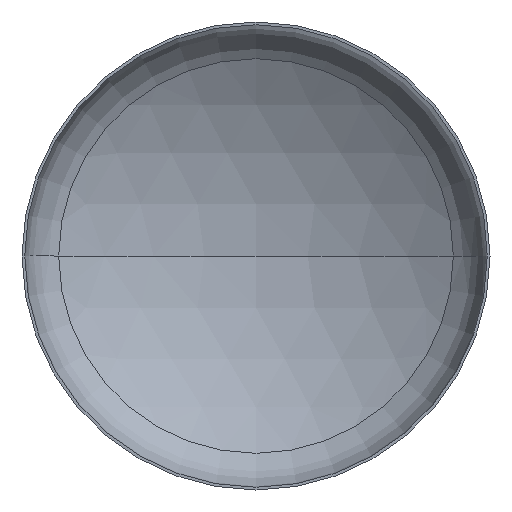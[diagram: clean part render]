
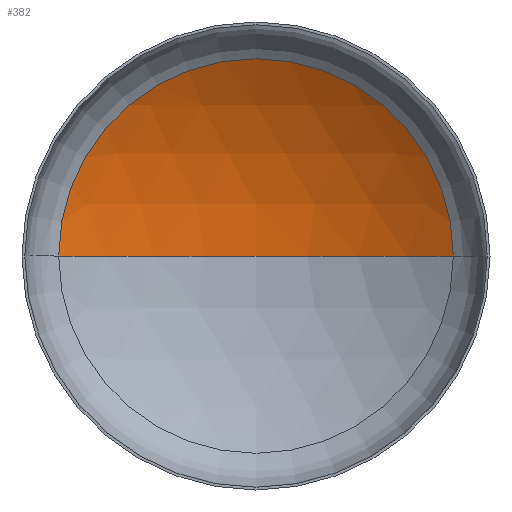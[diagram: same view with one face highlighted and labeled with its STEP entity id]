
A CAD part, front view. The second image highlights one B-rep face of the part: STEP entity #382.
In plain terms, the highlighted spherical face has radius 406 mm.
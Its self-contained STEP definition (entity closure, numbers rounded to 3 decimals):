
#13 = EDGE_LOOP ( 'NONE', ( #30, #21, #114 ) ) ;
#16 = AXIS2_PLACEMENT_3D ( 'NONE', #345, #187, #190 ) ;
#21 = ORIENTED_EDGE ( 'NONE', *, *, #331, .T. ) ;
#22 = AXIS2_PLACEMENT_3D ( 'NONE', #159, #160, #373 ) ;
#30 = ORIENTED_EDGE ( 'NONE', *, *, #372, .F. ) ;
#72 = DIRECTION ( 'NONE',  ( 0., 0., -1. ) ) ;
#78 = VERTEX_POINT ( 'NONE', #369 ) ;
#114 = ORIENTED_EDGE ( 'NONE', *, *, #328, .T. ) ;
#118 = VERTEX_POINT ( 'NONE', #342 ) ;
#131 = VERTEX_POINT ( 'NONE', #306 ) ;
#136 = SPHERICAL_SURFACE ( 'NONE', #259, 406. ) ;
#159 = CARTESIAN_POINT ( 'NONE',  ( 0., 86.268, 0. ) ) ;
#160 = DIRECTION ( 'NONE',  ( 0., -1., 0. ) ) ;
#187 = DIRECTION ( 'NONE',  ( 0., 0., -1. ) ) ;
#190 = DIRECTION ( 'NONE',  ( -1., 0., 0. ) ) ;
#202 = FACE_OUTER_BOUND ( 'NONE', #13, .T. ) ;
#213 = AXIS2_PLACEMENT_3D ( 'NONE', #296, #393, #249 ) ;
#249 = DIRECTION ( 'NONE',  ( 1., 0., 0. ) ) ;
#259 = AXIS2_PLACEMENT_3D ( 'NONE', #409, #72, #392 ) ;
#269 = CIRCLE ( 'NONE', #213, 406. ) ;
#296 = CARTESIAN_POINT ( 'NONE',  ( 0., -258.666, 0. ) ) ;
#306 = CARTESIAN_POINT ( 'NONE',  ( 0., 147.334, 0. ) ) ;
#328 = EDGE_CURVE ( 'NONE', #118, #78, #410, .T. ) ;
#331 = EDGE_CURVE ( 'NONE', #131, #118, #362, .T. ) ;
#342 = CARTESIAN_POINT ( 'NONE',  ( 214.14, 86.268, 0. ) ) ;
#345 = CARTESIAN_POINT ( 'NONE',  ( 0., -258.666, 0. ) ) ;
#362 = CIRCLE ( 'NONE', #16, 406. ) ;
#369 = CARTESIAN_POINT ( 'NONE',  ( -214.14, 86.268, 0. ) ) ;
#372 = EDGE_CURVE ( 'NONE', #131, #78, #269, .T. ) ;
#373 = DIRECTION ( 'NONE',  ( 1., 0., 0. ) ) ;
#382 = ADVANCED_FACE ( 'NONE', ( #202 ), #136, .F. ) ;
#392 = DIRECTION ( 'NONE',  ( -1., 0., 0. ) ) ;
#393 = DIRECTION ( 'NONE',  ( 0., 0., 1. ) ) ;
#409 = CARTESIAN_POINT ( 'NONE',  ( 0., -258.666, 0. ) ) ;
#410 = CIRCLE ( 'NONE', #22, 214.14 ) ;
